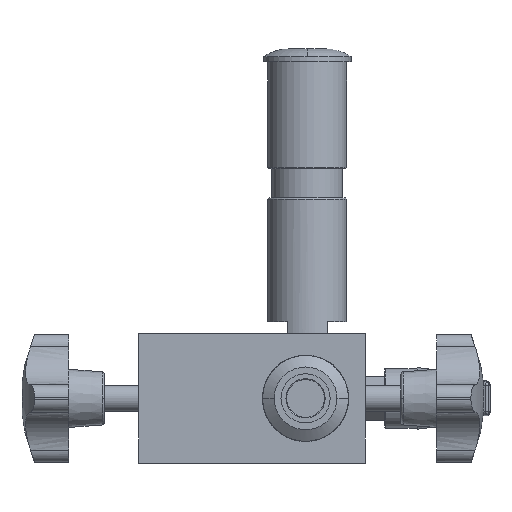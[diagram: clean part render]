
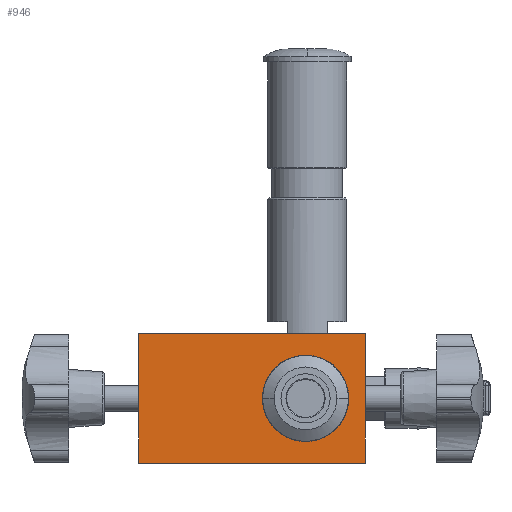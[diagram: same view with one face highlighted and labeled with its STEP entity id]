
A CAD part, front view. The second image highlights one B-rep face of the part: STEP entity #946.
In plain terms, the highlighted planar face has unit normal (0, -1, 0).
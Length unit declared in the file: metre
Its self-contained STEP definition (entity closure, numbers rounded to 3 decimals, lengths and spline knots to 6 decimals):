
#946=ADVANCED_FACE('0:1824',(#2649,#2650),#2651,.F.);
#2649=FACE_OUTER_BOUND('',#4779,.T.);
#2650=FACE_BOUND('',#4780,.T.);
#2651=PLANE('',#4781);
#4779=EDGE_LOOP('',(#11108,#11109,#11110,#11111));
#4780=EDGE_LOOP('',(#11112,#11113));
#4781=AXIS2_PLACEMENT_3D('',#11114,#11115,#11116);
#11108=ORIENTED_EDGE('',*,*,#13384,.F.);
#11109=ORIENTED_EDGE('',*,*,#13395,.F.);
#11110=ORIENTED_EDGE('',*,*,#13388,.F.);
#11111=ORIENTED_EDGE('',*,*,#13392,.F.);
#11112=ORIENTED_EDGE('',*,*,#13314,.F.);
#11113=ORIENTED_EDGE('',*,*,#13282,.F.);
#11114=CARTESIAN_POINT('',(-0.00063,0.02245,0.021153));
#11115=DIRECTION('',(0.0,1.0,0.));
#11116=DIRECTION('',(0.0,0.,-1.0));
#13282=EDGE_CURVE('0:1920',#16364,#16366,#16367,.T.);
#13314=EDGE_CURVE('0:1920',#16366,#16364,#16417,.T.);
#13384=EDGE_CURVE('0:2139',#16521,#16522,#16523,.T.);
#13388=EDGE_CURVE('0:2151',#16529,#16530,#16531,.T.);
#13392=EDGE_CURVE('0:2163',#16522,#16529,#16537,.T.);
#13395=EDGE_CURVE('0:2172',#16530,#16521,#16540,.T.);
#16364=VERTEX_POINT('',#21273);
#16366=VERTEX_POINT('',#21276);
#16367=CIRCLE('',#21277,0.013);
#16417=CIRCLE('',#21336,0.013);
#16521=VERTEX_POINT('',#21758);
#16522=VERTEX_POINT('',#21759);
#16523=LINE('',#21760,#21761);
#16529=VERTEX_POINT('',#21770);
#16530=VERTEX_POINT('',#21771);
#16531=LINE('',#21772,#21773);
#16537=LINE('',#21782,#21783);
#16540=LINE('',#21788,#21789);
#21273=CARTESIAN_POINT('',(-0.01363,0.02245,0.021153));
#21276=CARTESIAN_POINT('',(0.01237,0.02245,0.021153));
#21277=AXIS2_PLACEMENT_3D('',#25192,#25193,#25194);
#21336=AXIS2_PLACEMENT_3D('',#25270,#25271,#25272);
#21758=CARTESIAN_POINT('',(-0.05213,0.02245,0.001153));
#21759=CARTESIAN_POINT('',(-0.05213,0.02245,0.041153));
#21760=CARTESIAN_POINT('',(-0.05213,0.02245,0.001153));
#21761=VECTOR('',#25400,1.0);
#21770=CARTESIAN_POINT('',(0.01787,0.02245,0.041153));
#21771=CARTESIAN_POINT('',(0.01787,0.02245,0.001153));
#21772=CARTESIAN_POINT('',(0.01787,0.02245,0.041153));
#21773=VECTOR('',#25404,1.0);
#21782=CARTESIAN_POINT('',(-0.05213,0.02245,0.041153));
#21783=VECTOR('',#25408,1.0);
#21788=CARTESIAN_POINT('',(0.01787,0.02245,0.001153));
#21789=VECTOR('',#25411,1.0);
#25192=CARTESIAN_POINT('',(-0.00063,0.02245,0.021153));
#25193=DIRECTION('',(-0.0,-1.0,0.));
#25194=DIRECTION('',(-1.0,0.0,0.0));
#25270=CARTESIAN_POINT('',(-0.00063,0.02245,0.021153));
#25271=DIRECTION('',(-0.0,-1.0,0.));
#25272=DIRECTION('',(-1.0,0.0,0.0));
#25400=DIRECTION('',(0.0,0.,1.0));
#25404=DIRECTION('',(0.,0.,-1.0));
#25408=DIRECTION('',(1.0,0.0,0.0));
#25411=DIRECTION('',(-1.0,0.,0.));
